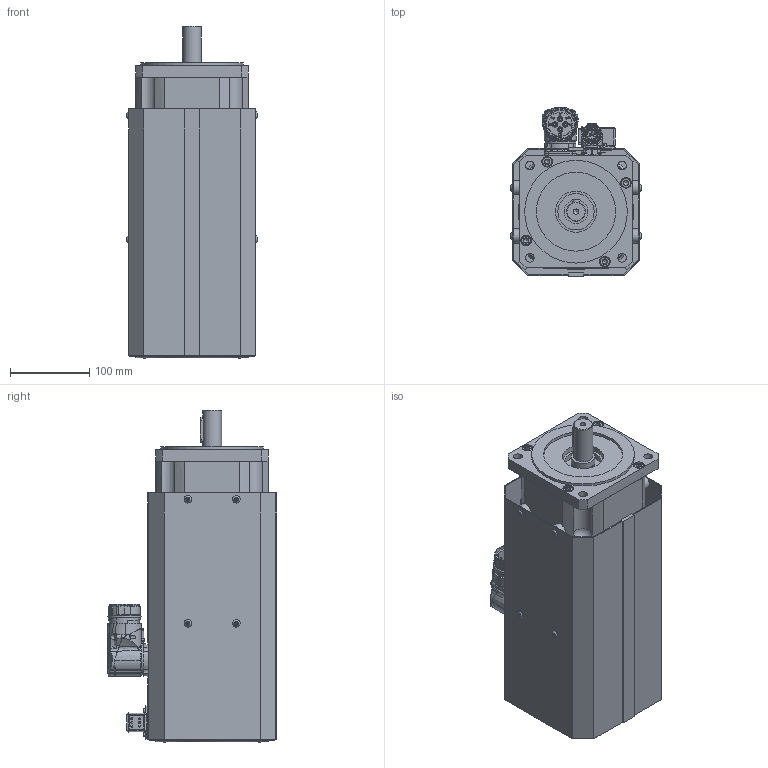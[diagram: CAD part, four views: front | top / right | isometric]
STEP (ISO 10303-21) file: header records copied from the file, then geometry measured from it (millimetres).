
FILE_DESCRIPTION(/* description */ (''),/* implementation_level */ '2;1');
FILE_NAME(/* name */ 'C:\Users\Public\Documents\Autodesk\Inventor LT 2014\Workspace\Motori Sito WEB\TG_5\DSF5_5\STEP_DSF5_5x\DSF5_53_x099.stp',/* time_stamp */ '2021-04-07T14:56:19+02:00',/* author */ ('marcor'),/* organization */ (''),/* preprocessor_version */ 'ST-DEVELOPER v15.2',/* originating_system */ 'Autodesk Inventor LT ',/* authorisation */ '');
FILE_SCHEMA (('AUTOMOTIVE_DESIGN { 1 0 10303 214 3 1 1 }'));
Products named in the file (1): DSF5_53_x099
Bounding box: 165.9 x 214.25 x 420.2 mm (x, y, z)
Volume: 5894117.5 mm3; surface area: 811167.6 mm2
Topology: 26 solids, 40 shells, 2159 faces, 5381 edges, 3486 vertices
Faces by surface type: plane 943, cylinder 475, cone 410, bspline 189, torus 105, sphere 37
Full cylindrical faces by diameter (mm): 1.2 x17, 2 x2, 2.2 x4, 2.224 x4, 2.4 x6, 2.5 x4, 2.88 x4, 3 x4, 3.26 x4, 3.5 x10, 3.6 x5, 4 x9, 4.134 x8, 4.5 x9, 4.8 x4, 4.917 x4, 5 x8, 5.4 x1, 5.5 x11, 5.9 x1, 6 x4, 6.5 x12, 6.647 x9, 7 x4, 7.5 x4, 8 x11, 8.5 x9, 10 x4, 11 x8, 12 x1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
Entity records: 71361 total; most frequent: CARTESIAN_POINT 22368, ORIENTED_EDGE 9576, DIRECTION 9342, EDGE_CURVE 4746, AXIS2_PLACEMENT_3D 3705, VERTEX_POINT 3308, EDGE_LOOP 2900, ADVANCED_FACE 2159
